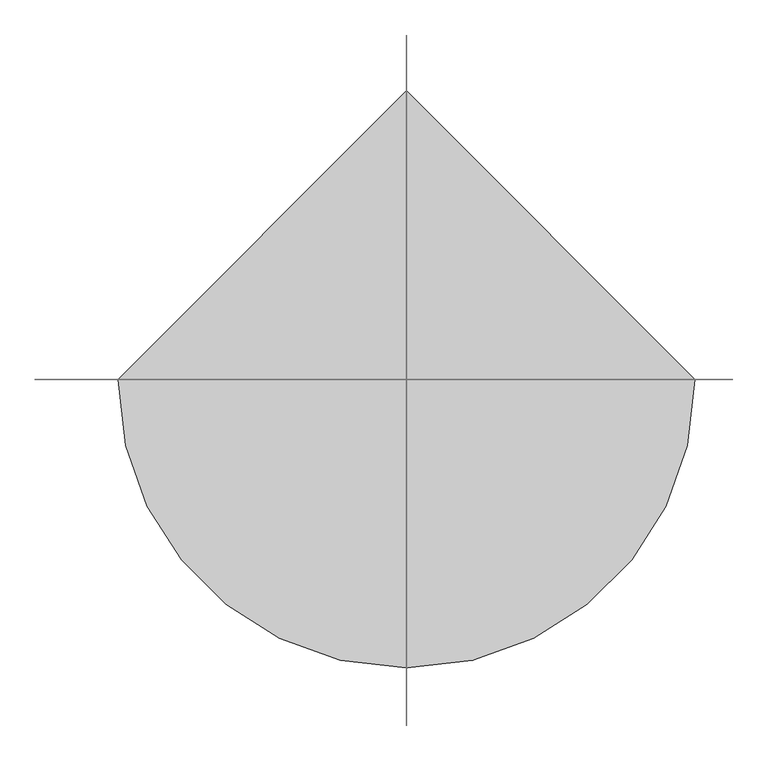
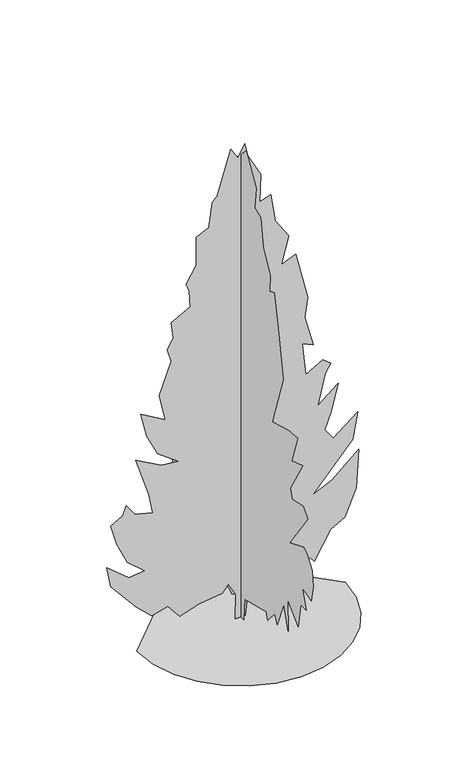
"""IFC4 building model written with IfcOpenShell, lengths in millimetres: geographic element geometry, 木 - 針葉樹 : オウシュウトウヒ - 4.6 メートル."""

from ifc_helpers import new_model, si_unit, origin, place, context, project, spatial, triangles, source, transform, mapped, element, save


def geographic_element_62d1d38a(model_context):
    return source(origin(), model_context, "Body", "Tessellation", [
        triangles([(-960.6239954, 0.0, 2.44e-05), (-935.2217669, -220.1564384, 2.44e-05), (-862.881633, -422.3339959, 2.44e-05), (-749.3918306, -600.7425828, 2.44e-05), (-600.5459015, -749.5884756, 2.44e-05), (-422.1373146, -863.078278, 2.44e-05), (-219.9595209, -935.4184118, 2.44e-05), (0.1967131, -960.8206404, 2.44e-05), (220.3531015, -935.4184118, 2.44e-05), (422.5306772, -863.078278, 2.44e-05), (600.9392641, -749.5884756, 2.44e-05), (749.7851206, -600.7425828, 2.44e-05), (863.2749229, -422.3339959, 2.44e-05), (935.6150568, -220.156184, 2.44e-05), (961.0172853, 8.4e-05, 2.44e-05), (0.1965451, 960.8206404, 2.44e-05), (-52.1350127, 2.3e-06, 4.1e-06), (-45.8304556, -1.2e-05, 235.4235842), (-114.934518, -1.65e-05, 361.0926395), (-169.8825993, -9.9e-06, 290.4442266), (-381.3250528, 1.2e-06, 259.7749866), (-562.3735585, 1.24e-05, 204.0957726), (-672.2727734, 9.3e-06, 337.5431685), (-821.4202103, 1.81e-05, 298.2949101), (-970.5651037, 1.62e-05, 439.5916998), (-1198.2116735, 9.8e-06, 714.3345955), (-1237.4599319, -2e-07, 910.5809744), (-1033.3654129, 7e-07, 745.7347137), (-884.217976, -6.7e-06, 761.4334648), (-1049.064164, -7.9e-06, 902.7302908), (-1143.262048, -1.6e-05, 1106.8273533), (-1198.2116735, -2.53e-05, 1303.0736595), (-1088.3124224, -3.38e-05, 1365.8714252), (-1056.9148476, -4.04e-05, 1452.2186256), (-978.4157873, -3.72e-05, 1342.3219906), (-813.5695267, -4.21e-05, 1303.0736595), (-847.6428102, -5.2e-05, 1493.7566425), (-970.5651037, -6.89e-05, 1868.2608181), (-735.0704664, -7.13e-05, 1734.8121323), (-577.6097651, -7.73e-05, 1720.2301735), (-766.4706573, -7.74e-05, 1860.4101345), (-868.5191523, -8.51e-05, 2064.5072697), (-923.4662344, -9.67e-05, 2300.001907), (-695.8222807, -9.87e-05, 2166.5532211), (-750.7692902, -0.0001113, 2417.7492256), (-640.8726551, -0.0001339, 2716.0467155), (-680.1209135, -0.0001396, 2841.6521301), (-625.1738314, -0.0001481, 2943.6956108), (-640.8726551, -0.0001563, 3092.8379608), (-468.1757109, -0.0001695, 3187.0359901), (-476.4914824, -0.0001784, 3342.7459625), (-504.7917171, -0.000182, 3423.1183823), (-413.2260853, -0.0001948, 3571.6729774), (-413.2260853, -0.0002112, 3846.420742), (-297.155245, -0.0002193, 3898.0431725), (-264.08121, -0.0002346, 4129.0145393), (-216.9812688, -0.0002399, 4183.95886), (-91.384293, -0.0002697, 4592.1580719), (-28.585553, -0.0002664, 4490.1145912), (34.2131869, -0.0002757, 4600.0038139), (65.6128147, -0.0002696, 4474.3981087), (183.3601197, -0.0002616, 4254.6199539), (175.5102173, -0.0002453, 3987.7176407), (277.5564413, -0.0002517, 4019.1253166), (316.8072613, -0.0002375, 3752.2230034), (442.4052635, -0.0002317, 3563.8272354), (371.7568505, -0.0002132, 3304.7703735), (505.2029566, -0.0002223, 3359.7405647), (615.1021351, -0.0002, 2904.4421928), (591.5527004, -0.0001877, 2716.0467155), (670.0491446, -0.0001734, 2417.7492256), (568.0032294, -0.0001717, 2464.8480949), (599.4008406, -0.0001544, 2150.8543247), (756.3988884, -0.0001669, 2245.0522087), (827.0473377, -0.0001662, 2182.2545883), (779.9483957, -0.0001595, 2103.7554554), (709.3000191, -0.0001391, 1813.3112652), (897.6957144, -0.0001562, 1962.4587021), (834.8954052, -0.0001385, 1711.2653137), (772.0977121, -0.0001264, 1554.2671932), (850.5967724, -0.0001233, 1444.3705582), (1078.2407261, -0.000144, 1624.9154972), (1031.1417841, -0.0001269, 1373.7221088), (662.2010771, -8.6e-05, 957.6798437), (842.7460888, -9.91e-05, 1044.0270441), (1086.1680765, -0.0001222, 1253.0972042), (1062.541975, -9.93e-05, 887.0314671), (960.4934074, -7.99e-05, 635.8355352), (827.0473377, -6.98e-05, 565.1871222), (677.8998281, -4.79e-05, 306.143014), (638.6515697, -4.9e-05, 353.2419559), (371.7568505, -2.42e-05, 133.4471325), (348.2074159, -2.92e-05, 235.495146), (136.2609506, -1.48e-05, 149.1469373), (65.6125558, -1.55e-05, 211.9454206), (42.0628395, -1.8e-06, 0.0), (0.1966732, 47.6010916, 2.86e-05), (0.1966799, 71.150558, 188.3959678), (0.1966813, 133.9493003, 141.2970349), (0.1966876, 243.8472161, 188.3959678), (0.1966944, 385.1429884, 204.0957726), (0.1967017, 549.9917562, 204.0957726), (0.1967083, 590.9011414, 364.4097336), (0.1967123, 715.0986477, 311.6860259), (0.1967187, 777.6357462, 431.7410162), (0.1967322, 958.1833014, 612.2860279), (0.1967497, 1130.8777021, 941.9810926), (0.1967534, 1146.5789967, 1044.0270441), (0.1967354, 816.8840046, 934.130409), (0.1967505, 1013.1303835, 1146.0756117), (0.1967652, 1126.6354465, 1469.5861702), (0.196754, 914.3503664, 1410.3509777), (0.1967588, 911.0818159, 1577.8166279), (0.1967517, 777.6357462, 1538.5682968), (0.1967598, 832.5852991, 1726.9640648), (0.1967705, 848.2841228, 2064.5072697), (0.196752, 518.5916379, 1938.9092674), (0.1967644, 644.1896038, 2166.5556919), (0.196773, 604.938802, 2511.9469643), (0.1967827, 675.5871786, 2731.7376183), (0.1967849, 571.4328893, 2962.938913), (0.1967915, 563.3317849, 3197.1048523), (0.1967873, 400.8443192, 3296.9249222), (0.1967932, 440.0925776, 3438.2215302), (0.1967954, 310.6535671, 3704.5619591), (0.1968004, 275.2463352, 3924.927578), (0.196798, 212.4475884, 3940.6187714), (0.196804, 94.7000245, 4317.4100166), (0.1968063, 63.3006511, 4443.0157219), (0.1968043, -85.8455232, 4600.0038139), (0.1967891, -242.8428806, 4325.2557587), (0.1967841, -219.2934278, 4121.1687973), (0.1967786, -321.3409235, 4089.7611214), (0.1967689, -360.5917253, 3822.8585175), (0.1967579, -470.4883604, 3618.7718468), (0.1967533, -462.6377131, 3453.9383034), (0.1967511, -533.2860898, 3485.3206902), (0.196739, -596.0863626, 3171.3447968), (0.1967221, -674.5828794, 2723.8921669), (0.1967144, -501.888515, 2205.804023), (0.1967053, -754.0862389, 2279.427), (0.1966987, -910.0775167, 2292.1512234), (0.1966947, -815.8796328, 2017.408255), (0.1966887, -988.576577, 2072.3553371), (0.1966874, -792.3301981, 1734.8147484), (0.1966834, -823.7303164, 1648.4649319), (0.1966766, -998.6352654, 1682.5637226), (0.1966711, -1067.0756372, 1601.3660625), (0.1966718, -784.482058, 1201.0251646), (0.1966645, -1004.2779442, 1287.3722923), (0.1966609, -1059.2249537, 1248.1241066), (0.1966541, -1137.7240139, 1138.2249281), (0.196649, -1153.4228376, 989.0800346), (0.1966459, -1122.0252628, 839.9325251), (0.1966534, -980.7284369, 879.1807835), (0.1966453, -1043.5262026, 698.6357718), (0.1966491, -957.1790022, 698.6357718), (0.1966438, -917.9282003, 463.1411345), (0.1966562, -745.2312561, 620.1367115), (0.1966467, -760.9326233, 321.8443811), (0.1966565, -682.433563, 533.7895474), (0.1966533, -580.3850318, 274.7454391), (0.1966576, -541.1367734, 361.0926395), (0.1966586, -431.2375586, 227.6452436), (0.1966617, -407.6880876, 298.2949101), (0.1966746, -62.2965699, 211.945675), (0.196669, -46.5967606, 2.58e-05)], [[15, 16, 1], [14, 15, 1], [14, 1, 2], [13, 14, 2], [13, 2, 3], [13, 3, 4], [12, 13, 4], [11, 12, 4], [11, 4, 5], [11, 5, 6], [11, 6, 7], [11, 7, 8], [11, 8, 9], [11, 9, 10], [77, 78, 79], [81, 82, 83], [37, 38, 39], [59, 60, 61], [85, 86, 87], [42, 43, 44], [57, 58, 59], [70, 71, 72], [33, 34, 35], [91, 92, 93], [89, 90, 91], [81, 83, 84], [26, 27, 28], [25, 26, 28], [67, 68, 69], [63, 64, 65], [25, 28, 29], [96, 17, 18], [95, 96, 18], [41, 42, 44], [74, 75, 76], [73, 74, 76], [73, 76, 77], [85, 87, 88], [84, 85, 88], [84, 88, 89], [31, 32, 33], [31, 33, 35], [77, 79, 80], [37, 39, 40], [31, 35, 36], [30, 31, 36], [29, 30, 36], [21, 22, 23], [48, 49, 50], [40, 41, 44], [53, 54, 55], [84, 89, 91], [84, 91, 93], [93, 94, 95], [84, 93, 95], [84, 95, 18], [84, 18, 19], [24, 25, 29], [23, 24, 29], [36, 37, 40], [80, 81, 84], [59, 61, 62], [57, 59, 62], [57, 62, 63], [56, 57, 63], [55, 56, 63], [55, 63, 65], [53, 55, 65], [53, 65, 66], [53, 66, 67], [52, 53, 67], [51, 52, 67], [50, 51, 67], [50, 67, 69], [50, 69, 70], [48, 50, 70], [48, 70, 72], [47, 48, 72], [46, 47, 72], [45, 46, 72], [44, 45, 72], [44, 72, 73], [40, 44, 73], [40, 73, 77], [40, 77, 80], [40, 80, 84], [40, 84, 19], [36, 40, 19], [29, 36, 19], [23, 29, 19], [21, 23, 19], [20, 21, 19], [159, 160, 161], [143, 144, 145], [161, 162, 163], [110, 111, 112], [157, 158, 159], [163, 164, 165], [107, 108, 109], [106, 107, 109], [141, 142, 143], [115, 116, 117], [155, 156, 157], [129, 130, 131], [112, 113, 114], [136, 137, 138], [128, 129, 131], [128, 131, 132], [127, 128, 132], [153, 154, 155], [140, 141, 143], [166, 167, 97], [166, 97, 98], [103, 104, 105], [101, 102, 103], [147, 148, 149], [146, 147, 149], [114, 115, 117], [105, 106, 109], [125, 126, 127], [103, 105, 109], [132, 133, 134], [127, 132, 134], [125, 127, 134], [125, 134, 135], [125, 135, 136], [124, 125, 136], [123, 124, 136], [123, 136, 138], [123, 138, 139], [123, 139, 140], [122, 123, 140], [121, 122, 140], [120, 121, 140], [119, 120, 140], [118, 119, 140], [117, 118, 140], [140, 143, 145], [117, 140, 145], [114, 117, 145], [114, 145, 146], [114, 146, 149], [152, 153, 155], [151, 152, 155], [150, 151, 155], [149, 150, 155], [109, 110, 112], [155, 157, 159], [149, 155, 159], [114, 149, 159], [114, 159, 161], [114, 161, 163], [114, 163, 165], [114, 165, 166], [114, 166, 98], [112, 114, 98], [109, 112, 98], [103, 109, 98], [101, 103, 98], [100, 101, 98], [99, 100, 98]], closed=False),
    ])


if __name__ == "__main__":
    model = new_model("IFC4")
    model_context = context("Model", 3, world=origin())
    ifc_project = project(units=[si_unit("LENGTHUNIT", "METRE", prefix="MILLI")], contexts=[model_context])
    site = spatial("IfcSite", under=ifc_project)
    building = spatial("IfcBuilding", under=site)
    placement = place(None, origin())
    geographic_element_shape = geographic_element_62d1d38a(model_context)
    element("IfcGeographicElement", 1, ObjectType="木 - 針葉樹 : オウシュウトウヒ - 4.6 メートル", at=placement, inside=building, context=model_context, shape_type="MappedRepresentation", body=[
        mapped(geographic_element_shape, transform((0.0, 0.0, 0.0), x_axis=(1.0, 0.0, 0.0), y_axis=(0.0, 1.0, 0.0), z_axis=(0.0, 0.0, 1.0))),
    ])
    save(model, "model.ifc")
